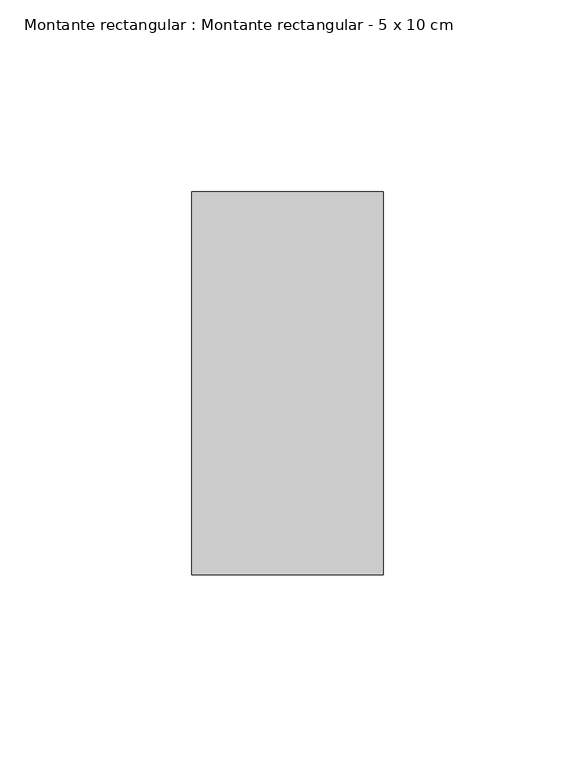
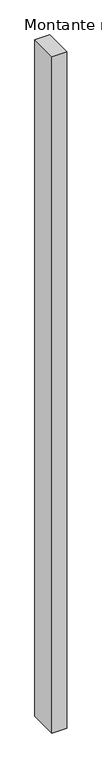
"""IFC4 building model written with IfcOpenShell, lengths in millimetres: member geometry, Montante rectangular : Montante rectangular - 5 x 10 cm."""

from ifc_helpers import new_model, si_unit, frame, origin, place, context, project, spatial, polyline, outline, extrude, source, transform, mapped, element, save


def montante_rectangular_montante_rectangular_5_x_10_cm_2a350028(model_context):
    return source(origin(), model_context, "Body", "SweptSolid", [
        extrude(outline(polyline([(25.0, 50.0), (25.0, -50.0), (-25.0, -50.0), (-25.0, 50.0), (25.0, 50.0)])), frame((0.0, 0.0, -2425.0), z_axis=(0.0, 0.0, 1.0), x_axis=(1.0, 0.0, 0.0)), (0.0, 0.0, 1.0), 2425.0),
    ])


if __name__ == "__main__":
    model = new_model("IFC4")
    model_context = context("Model", 3, world=origin())
    ifc_project = project(units=[si_unit("LENGTHUNIT", "METRE", prefix="MILLI")], contexts=[model_context])
    site = spatial("IfcSite", under=ifc_project)
    building = spatial("IfcBuilding", under=site)
    placement = place(None, origin())
    montante_rectangular_montante_rectangular_5_x_10_cm_shape = montante_rectangular_montante_rectangular_5_x_10_cm_2a350028(model_context)
    element("IfcMember", 1, ObjectType="Montante rectangular : Montante rectangular - 5 x 10 cm", at=placement, inside=building, context=model_context, shape_type="MappedRepresentation", body=[
        mapped(montante_rectangular_montante_rectangular_5_x_10_cm_shape, transform((0.0, 0.0, 0.0), x_axis=(1.0, 0.0, 0.0), y_axis=(0.0, 1.0, 0.0), z_axis=(0.0, 0.0, 1.0))),
    ])
    save(model, "model.ifc")
